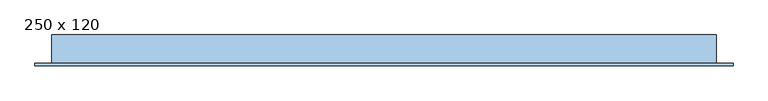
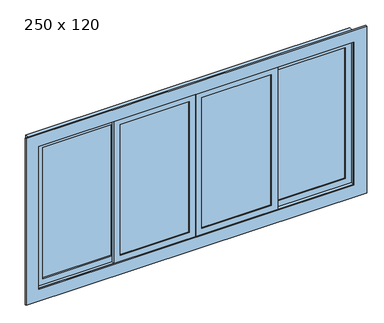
"""IFC4 building model written with IfcOpenShell, lengths in millimetres: window geometry, JANELA COM ESQUADRIA DE CORRER - 4 FOLHAS + VENEZIANA DE CORRER - 4 FOLHAS : 250 x 120."""

from ifc_helpers import new_model, si_unit, frame, origin, place, context, project, spatial, polyline, outline, extrude, source, transform, mapped, element, save


def window_250_x_120_5eaaa340(model_context):
    return source(origin(), model_context, "Body", "SweptSolid", [
        extrude(outline(polyline([(19.1241605, 2085.4166667), (-0.8758395, 2120.4166667), (4.1241605, 2120.4166667), (24.1241605, 2085.4166667), (19.1241605, 2085.4166667)])), frame((779.4035509, 0.0, 0.0), z_axis=(1.0, 0.0, 0.0), x_axis=(0.0, 1.0, 0.0)), (0.0, 0.0, 1.0), 550.0),
        extrude(outline(polyline([(19.1241605, 2055.8333333), (-0.8758395, 2090.8333333), (4.1241605, 2090.8333333), (24.1241605, 2055.8333333), (19.1241605, 2055.8333333)])), frame((779.4035509, 0.0, 0.0), z_axis=(1.0, 0.0, 0.0), x_axis=(0.0, 1.0, 0.0)), (0.0, 0.0, 1.0), 550.0),
        extrude(outline(polyline([(19.1241605, 2026.25), (-0.8758395, 2061.25), (4.1241605, 2061.25), (24.1241605, 2026.25), (19.1241605, 2026.25)])), frame((779.4035509, 0.0, 0.0), z_axis=(1.0, 0.0, 0.0), x_axis=(0.0, 1.0, 0.0)), (0.0, 0.0, 1.0), 550.0),
        extrude(outline(polyline([(19.1241605, 1996.6666667), (-0.8758395, 2031.6666667), (4.1241605, 2031.6666667), (24.1241605, 1996.6666667), (19.1241605, 1996.6666667)])), frame((779.4035509, 0.0, 0.0), z_axis=(1.0, 0.0, 0.0), x_axis=(0.0, 1.0, 0.0)), (0.0, 0.0, 1.0), 550.0),
        extrude(outline(polyline([(19.1241605, 1967.0833333), (-0.8758395, 2002.0833333), (4.1241605, 2002.0833333), (24.1241605, 1967.0833333), (19.1241605, 1967.0833333)])), frame((779.4035509, 0.0, 0.0), z_axis=(1.0, 0.0, 0.0), x_axis=(0.0, 1.0, 0.0)), (0.0, 0.0, 1.0), 550.0),
        extrude(outline(polyline([(19.1241605, 1937.5), (-0.8758395, 1972.5), (4.1241605, 1972.5), (24.1241605, 1937.5), (19.1241605, 1937.5)])), frame((779.4035509, 0.0, 0.0), z_axis=(1.0, 0.0, 0.0), x_axis=(0.0, 1.0, 0.0)), (0.0, 0.0, 1.0), 550.0),
        extrude(outline(polyline([(19.1241605, 1907.9166667), (-0.8758395, 1942.9166667), (4.1241605, 1942.9166667), (24.1241605, 1907.9166667), (19.1241605, 1907.9166667)])), frame((779.4035509, 0.0, 0.0), z_axis=(1.0, 0.0, 0.0), x_axis=(0.0, 1.0, 0.0)), (0.0, 0.0, 1.0), 550.0),
        extrude(outline(polyline([(19.1241605, 1878.3333333), (-0.8758395, 1913.3333333), (4.1241605, 1913.3333333), (24.1241605, 1878.3333333), (19.1241605, 1878.3333333)])), frame((779.4035509, 0.0, 0.0), z_axis=(1.0, 0.0, 0.0), x_axis=(0.0, 1.0, 0.0)), (0.0, 0.0, 1.0), 550.0),
        extrude(outline(polyline([(19.1241605, 1848.75), (-0.8758395, 1883.75), (4.1241605, 1883.75), (24.1241605, 1848.75), (19.1241605, 1848.75)])), frame((779.4035509, 0.0, 0.0), z_axis=(1.0, 0.0, 0.0), x_axis=(0.0, 1.0, 0.0)), (0.0, 0.0, 1.0), 550.0),
        extrude(outline(polyline([(19.1241605, 1819.1666667), (-0.8758395, 1854.1666667), (4.1241605, 1854.1666667), (24.1241605, 1819.1666667), (19.1241605, 1819.1666667)])), frame((779.4035509, 0.0, 0.0), z_axis=(1.0, 0.0, 0.0), x_axis=(0.0, 1.0, 0.0)), (0.0, 0.0, 1.0), 550.0),
        extrude(outline(polyline([(19.1241605, 1789.5833333), (-0.8758395, 1824.5833333), (4.1241605, 1824.5833333), (24.1241605, 1789.5833333), (19.1241605, 1789.5833333)])), frame((779.4035509, 0.0, 0.0), z_axis=(1.0, 0.0, 0.0), x_axis=(0.0, 1.0, 0.0)), (0.0, 0.0, 1.0), 550.0),
        extrude(outline(polyline([(19.1241605, 1760.0), (-0.8758395, 1795.0), (4.1241605, 1795.0), (24.1241605, 1760.0), (19.1241605, 1760.0)])), frame((779.4035509, 0.0, 0.0), z_axis=(1.0, 0.0, 0.0), x_axis=(0.0, 1.0, 0.0)), (0.0, 0.0, 1.0), 550.0),
        extrude(outline(polyline([(19.1241605, 1730.4166667), (-0.8758395, 1765.4166667), (4.1241605, 1765.4166667), (24.1241605, 1730.4166667), (19.1241605, 1730.4166667)])), frame((779.4035509, 0.0, 0.0), z_axis=(1.0, 0.0, 0.0), x_axis=(0.0, 1.0, 0.0)), (0.0, 0.0, 1.0), 550.0),
        extrude(outline(polyline([(19.1241605, 1700.8333333), (-0.8758395, 1735.8333333), (4.1241605, 1735.8333333), (24.1241605, 1700.8333333), (19.1241605, 1700.8333333)])), frame((779.4035509, 0.0, 0.0), z_axis=(1.0, 0.0, 0.0), x_axis=(0.0, 1.0, 0.0)), (0.0, 0.0, 1.0), 550.0),
        extrude(outline(polyline([(19.1241605, 1671.25), (-0.8758395, 1706.25), (4.1241605, 1706.25), (24.1241605, 1671.25), (19.1241605, 1671.25)])), frame((779.4035509, 0.0, 0.0), z_axis=(1.0, 0.0, 0.0), x_axis=(0.0, 1.0, 0.0)), (0.0, 0.0, 1.0), 550.0),
        extrude(outline(polyline([(19.1241605, 1641.6666667), (-0.8758395, 1676.6666667), (4.1241605, 1676.6666667), (24.1241605, 1641.6666667), (19.1241605, 1641.6666667)])), frame((779.4035509, 0.0, 0.0), z_axis=(1.0, 0.0, 0.0), x_axis=(0.0, 1.0, 0.0)), (0.0, 0.0, 1.0), 550.0),
        extrude(outline(polyline([(19.1241605, 1612.0833333), (-0.8758395, 1647.0833333), (4.1241605, 1647.0833333), (24.1241605, 1612.0833333), (19.1241605, 1612.0833333)])), frame((779.4035509, 0.0, 0.0), z_axis=(1.0, 0.0, 0.0), x_axis=(0.0, 1.0, 0.0)), (0.0, 0.0, 1.0), 550.0),
        extrude(outline(polyline([(19.1241605, 1582.5), (-0.8758395, 1617.5), (4.1241605, 1617.5), (24.1241605, 1582.5), (19.1241605, 1582.5)])), frame((779.4035509, 0.0, 0.0), z_axis=(1.0, 0.0, 0.0), x_axis=(0.0, 1.0, 0.0)), (0.0, 0.0, 1.0), 550.0),
        extrude(outline(polyline([(19.1241605, 1552.9166667), (-0.8758395, 1587.9166667), (4.1241605, 1587.9166667), (24.1241605, 1552.9166667), (19.1241605, 1552.9166667)])), frame((779.4035509, 0.0, 0.0), z_axis=(1.0, 0.0, 0.0), x_axis=(0.0, 1.0, 0.0)), (0.0, 0.0, 1.0), 550.0),
        extrude(outline(polyline([(19.1241605, 1523.3333333), (-0.8758395, 1558.3333333), (4.1241605, 1558.3333333), (24.1241605, 1523.3333333), (19.1241605, 1523.3333333)])), frame((779.4035509, 0.0, 0.0), z_axis=(1.0, 0.0, 0.0), x_axis=(0.0, 1.0, 0.0)), (0.0, 0.0, 1.0), 550.0),
        extrude(outline(polyline([(19.1241605, 1493.75), (-0.8758395, 1528.75), (4.1241605, 1528.75), (24.1241605, 1493.75), (19.1241605, 1493.75)])), frame((779.4035509, 0.0, 0.0), z_axis=(1.0, 0.0, 0.0), x_axis=(0.0, 1.0, 0.0)), (0.0, 0.0, 1.0), 550.0),
        extrude(outline(polyline([(19.1241605, 1464.1666667), (-0.8758395, 1499.1666667), (4.1241605, 1499.1666667), (24.1241605, 1464.1666667), (19.1241605, 1464.1666667)])), frame((779.4035509, 0.0, 0.0), z_axis=(1.0, 0.0, 0.0), x_axis=(0.0, 1.0, 0.0)), (0.0, 0.0, 1.0), 550.0),
        extrude(outline(polyline([(19.1241605, 1434.5833333), (-0.8758395, 1469.5833333), (4.1241605, 1469.5833333), (24.1241605, 1434.5833333), (19.1241605, 1434.5833333)])), frame((779.4035509, 0.0, 0.0), z_axis=(1.0, 0.0, 0.0), x_axis=(0.0, 1.0, 0.0)), (0.0, 0.0, 1.0), 550.0),
        extrude(outline(polyline([(19.1241605, 1405.0), (-0.8758395, 1440.0), (4.1241605, 1440.0), (24.1241605, 1405.0), (19.1241605, 1405.0)])), frame((779.4035509, 0.0, 0.0), z_axis=(1.0, 0.0, 0.0), x_axis=(0.0, 1.0, 0.0)), (0.0, 0.0, 1.0), 550.0),
        extrude(outline(polyline([(19.1241605, 1375.4166667), (-0.8758395, 1410.4166667), (4.1241605, 1410.4166667), (24.1241605, 1375.4166667), (19.1241605, 1375.4166667)])), frame((779.4035509, 0.0, 0.0), z_axis=(1.0, 0.0, 0.0), x_axis=(0.0, 1.0, 0.0)), (0.0, 0.0, 1.0), 550.0),
        extrude(outline(polyline([(19.1241605, 1345.8333333), (-0.8758395, 1380.8333333), (4.1241605, 1380.8333333), (24.1241605, 1345.8333333), (19.1241605, 1345.8333333)])), frame((779.4035509, 0.0, 0.0), z_axis=(1.0, 0.0, 0.0), x_axis=(0.0, 1.0, 0.0)), (0.0, 0.0, 1.0), 550.0),
        extrude(outline(polyline([(19.1241605, 1316.25), (-0.8758395, 1351.25), (4.1241605, 1351.25), (24.1241605, 1316.25), (19.1241605, 1316.25)])), frame((779.4035509, 0.0, 0.0), z_axis=(1.0, 0.0, 0.0), x_axis=(0.0, 1.0, 0.0)), (0.0, 0.0, 1.0), 550.0),
        extrude(outline(polyline([(19.1241605, 1286.6666667), (-0.8758395, 1321.6666667), (4.1241605, 1321.6666667), (24.1241605, 1286.6666667), (19.1241605, 1286.6666667)])), frame((779.4035509, 0.0, 0.0), z_axis=(1.0, 0.0, 0.0), x_axis=(0.0, 1.0, 0.0)), (0.0, 0.0, 1.0), 550.0),
        extrude(outline(polyline([(19.1241605, 1257.0833333), (-0.8758395, 1292.0833333), (4.1241605, 1292.0833333), (24.1241605, 1257.0833333), (19.1241605, 1257.0833333)])), frame((779.4035509, 0.0, 0.0), z_axis=(1.0, 0.0, 0.0), x_axis=(0.0, 1.0, 0.0)), (0.0, 0.0, 1.0), 550.0),
        extrude(outline(polyline([(19.1241605, 1227.5), (-0.8758395, 1262.5), (4.1241605, 1262.5), (24.1241605, 1227.5), (19.1241605, 1227.5)])), frame((779.4035509, 0.0, 0.0), z_axis=(1.0, 0.0, 0.0), x_axis=(0.0, 1.0, 0.0)), (0.0, 0.0, 1.0), 550.0),
        extrude(outline(polyline([(19.1241605, 1197.9166667), (-0.8758395, 1232.9166667), (4.1241605, 1232.9166667), (24.1241605, 1197.9166667), (19.1241605, 1197.9166667)])), frame((779.4035509, 0.0, 0.0), z_axis=(1.0, 0.0, 0.0), x_axis=(0.0, 1.0, 0.0)), (0.0, 0.0, 1.0), 550.0),
        extrude(outline(polyline([(19.1241605, 1168.3333333), (-0.8758395, 1203.3333333), (4.1241605, 1203.3333333), (24.1241605, 1168.3333333), (19.1241605, 1168.3333333)])), frame((779.4035509, 0.0, 0.0), z_axis=(1.0, 0.0, 0.0), x_axis=(0.0, 1.0, 0.0)), (0.0, 0.0, 1.0), 550.0),
        extrude(outline(polyline([(19.1241605, 1138.75), (-0.8758395, 1173.75), (4.1241605, 1173.75), (24.1241605, 1138.75), (19.1241605, 1138.75)])), frame((779.4035509, 0.0, 0.0), z_axis=(1.0, 0.0, 0.0), x_axis=(0.0, 1.0, 0.0)), (0.0, 0.0, 1.0), 550.0),
        extrude(outline(polyline([(19.1241605, 1109.1666667), (-0.8758395, 1144.1666667), (4.1241605, 1144.1666667), (24.1241605, 1109.1666667), (19.1241605, 1109.1666667)])), frame((779.4035509, 0.0, 0.0), z_axis=(1.0, 0.0, 0.0), x_axis=(0.0, 1.0, 0.0)), (0.0, 0.0, 1.0), 550.0),
        extrude(outline(polyline([(19.1241605, 1079.5833333), (-0.8758395, 1114.5833333), (4.1241605, 1114.5833333), (24.1241605, 1079.5833333), (19.1241605, 1079.5833333)])), frame((779.4035509, 0.0, 0.0), z_axis=(1.0, 0.0, 0.0), x_axis=(0.0, 1.0, 0.0)), (0.0, 0.0, 1.0), 550.0),
        extrude(outline(polyline([(19.1241605, 2115.0), (-0.8758395, 2150.0), (4.1241605, 2150.0), (24.1241605, 2115.0), (19.1241605, 2115.0)])), frame((779.4035509, 0.0, 0.0), z_axis=(1.0, 0.0, 0.0), x_axis=(0.0, 1.0, 0.0)), (0.0, 0.0, 1.0), 550.0),
        extrude(outline(polyline([(19.1241605, 1050.0), (-0.8758395, 1085.0), (4.1241605, 1085.0), (24.1241605, 1050.0), (19.1241605, 1050.0)])), frame((779.4035509, 0.0, 0.0), z_axis=(1.0, 0.0, 0.0), x_axis=(0.0, 1.0, 0.0)), (0.0, 0.0, 1.0), 550.0),
        extrude(outline(polyline([(2200.0, 1379.4035509), (2200.0, 729.4035509), (1000.0, 729.4035509), (1000.0, 1379.4035509), (2200.0, 1379.4035509)]), holes=[polyline([(2150.0, 1329.4035509), (1050.0, 1329.4035509), (1050.0, 779.4035509), (2150.0, 779.4035509), (2150.0, 1329.4035509)])]), frame((0.0, -0.8758395, 0.0), z_axis=(0.0, 1.0, 0.0), x_axis=(0.0, 0.0, 1.0)), (0.0, 0.0, 1.0), 25.0),
        extrude(outline(polyline([(-5.8758395, 2085.4166667), (-25.8758395, 2120.4166667), (-20.8758395, 2120.4166667), (-0.8758395, 2085.4166667), (-5.8758395, 2085.4166667)])), frame((679.4035509, 0.0, 0.0), z_axis=(1.0, 0.0, 0.0), x_axis=(0.0, 1.0, 0.0)), (0.0, 0.0, 1.0), 550.0),
        extrude(outline(polyline([(-5.8758395, 2055.8333333), (-25.8758395, 2090.8333333), (-20.8758395, 2090.8333333), (-0.8758395, 2055.8333333), (-5.8758395, 2055.8333333)])), frame((679.4035509, 0.0, 0.0), z_axis=(1.0, 0.0, 0.0), x_axis=(0.0, 1.0, 0.0)), (0.0, 0.0, 1.0), 550.0),
        extrude(outline(polyline([(-5.8758395, 2026.25), (-25.8758395, 2061.25), (-20.8758395, 2061.25), (-0.8758395, 2026.25), (-5.8758395, 2026.25)])), frame((679.4035509, 0.0, 0.0), z_axis=(1.0, 0.0, 0.0), x_axis=(0.0, 1.0, 0.0)), (0.0, 0.0, 1.0), 550.0),
        extrude(outline(polyline([(-5.8758395, 1996.6666667), (-25.8758395, 2031.6666667), (-20.8758395, 2031.6666667), (-0.8758395, 1996.6666667), (-5.8758395, 1996.6666667)])), frame((679.4035509, 0.0, 0.0), z_axis=(1.0, 0.0, 0.0), x_axis=(0.0, 1.0, 0.0)), (0.0, 0.0, 1.0), 550.0),
        extrude(outline(polyline([(-5.8758395, 1967.0833333), (-25.8758395, 2002.0833333), (-20.8758395, 2002.0833333), (-0.8758395, 1967.0833333), (-5.8758395, 1967.0833333)])), frame((679.4035509, 0.0, 0.0), z_axis=(1.0, 0.0, 0.0), x_axis=(0.0, 1.0, 0.0)), (0.0, 0.0, 1.0), 550.0),
        extrude(outline(polyline([(-5.8758395, 1937.5), (-25.8758395, 1972.5), (-20.8758395, 1972.5), (-0.8758395, 1937.5), (-5.8758395, 1937.5)])), frame((679.4035509, 0.0, 0.0), z_axis=(1.0, 0.0, 0.0), x_axis=(0.0, 1.0, 0.0)), (0.0, 0.0, 1.0), 550.0),
        extrude(outline(polyline([(-5.8758395, 1907.9166667), (-25.8758395, 1942.9166667), (-20.8758395, 1942.9166667), (-0.8758395, 1907.9166667), (-5.8758395, 1907.9166667)])), frame((679.4035509, 0.0, 0.0), z_axis=(1.0, 0.0, 0.0), x_axis=(0.0, 1.0, 0.0)), (0.0, 0.0, 1.0), 550.0),
        extrude(outline(polyline([(-5.8758395, 1878.3333333), (-25.8758395, 1913.3333333), (-20.8758395, 1913.3333333), (-0.8758395, 1878.3333333), (-5.8758395, 1878.3333333)])), frame((679.4035509, 0.0, 0.0), z_axis=(1.0, 0.0, 0.0), x_axis=(0.0, 1.0, 0.0)), (0.0, 0.0, 1.0), 550.0),
        extrude(outline(polyline([(-5.8758395, 1848.75), (-25.8758395, 1883.75), (-20.8758395, 1883.75), (-0.8758395, 1848.75), (-5.8758395, 1848.75)])), frame((679.4035509, 0.0, 0.0), z_axis=(1.0, 0.0, 0.0), x_axis=(0.0, 1.0, 0.0)), (0.0, 0.0, 1.0), 550.0),
        extrude(outline(polyline([(-5.8758395, 1819.1666667), (-25.8758395, 1854.1666667), (-20.8758395, 1854.1666667), (-0.8758395, 1819.1666667), (-5.8758395, 1819.1666667)])), frame((679.4035509, 0.0, 0.0), z_axis=(1.0, 0.0, 0.0), x_axis=(0.0, 1.0, 0.0)), (0.0, 0.0, 1.0), 550.0),
        extrude(outline(polyline([(-5.8758395, 1789.5833333), (-25.8758395, 1824.5833333), (-20.8758395, 1824.5833333), (-0.8758395, 1789.5833333), (-5.8758395, 1789.5833333)])), frame((679.4035509, 0.0, 0.0), z_axis=(1.0, 0.0, 0.0), x_axis=(0.0, 1.0, 0.0)), (0.0, 0.0, 1.0), 550.0),
        extrude(outline(polyline([(-5.8758395, 1760.0), (-25.8758395, 1795.0), (-20.8758395, 1795.0), (-0.8758395, 1760.0), (-5.8758395, 1760.0)])), frame((679.4035509, 0.0, 0.0), z_axis=(1.0, 0.0, 0.0), x_axis=(0.0, 1.0, 0.0)), (0.0, 0.0, 1.0), 550.0),
        extrude(outline(polyline([(-5.8758395, 1730.4166667), (-25.8758395, 1765.4166667), (-20.8758395, 1765.4166667), (-0.8758395, 1730.4166667), (-5.8758395, 1730.4166667)])), frame((679.4035509, 0.0, 0.0), z_axis=(1.0, 0.0, 0.0), x_axis=(0.0, 1.0, 0.0)), (0.0, 0.0, 1.0), 550.0),
        extrude(outline(polyline([(-5.8758395, 1700.8333333), (-25.8758395, 1735.8333333), (-20.8758395, 1735.8333333), (-0.8758395, 1700.8333333), (-5.8758395, 1700.8333333)])), frame((679.4035509, 0.0, 0.0), z_axis=(1.0, 0.0, 0.0), x_axis=(0.0, 1.0, 0.0)), (0.0, 0.0, 1.0), 550.0),
        extrude(outline(polyline([(-5.8758395, 1671.25), (-25.8758395, 1706.25), (-20.8758395, 1706.25), (-0.8758395, 1671.25), (-5.8758395, 1671.25)])), frame((679.4035509, 0.0, 0.0), z_axis=(1.0, 0.0, 0.0), x_axis=(0.0, 1.0, 0.0)), (0.0, 0.0, 1.0), 550.0),
        extrude(outline(polyline([(-5.8758395, 1641.6666667), (-25.8758395, 1676.6666667), (-20.8758395, 1676.6666667), (-0.8758395, 1641.6666667), (-5.8758395, 1641.6666667)])), frame((679.4035509, 0.0, 0.0), z_axis=(1.0, 0.0, 0.0), x_axis=(0.0, 1.0, 0.0)), (0.0, 0.0, 1.0), 550.0),
        extrude(outline(polyline([(-5.8758395, 1612.0833333), (-25.8758395, 1647.0833333), (-20.8758395, 1647.0833333), (-0.8758395, 1612.0833333), (-5.8758395, 1612.0833333)])), frame((679.4035509, 0.0, 0.0), z_axis=(1.0, 0.0, 0.0), x_axis=(0.0, 1.0, 0.0)), (0.0, 0.0, 1.0), 550.0),
        extrude(outline(polyline([(-5.8758395, 1582.5), (-25.8758395, 1617.5), (-20.8758395, 1617.5), (-0.8758395, 1582.5), (-5.8758395, 1582.5)])), frame((679.4035509, 0.0, 0.0), z_axis=(1.0, 0.0, 0.0), x_axis=(0.0, 1.0, 0.0)), (0.0, 0.0, 1.0), 550.0),
        extrude(outline(polyline([(-5.8758395, 1552.9166667), (-25.8758395, 1587.9166667), (-20.8758395, 1587.9166667), (-0.8758395, 1552.9166667), (-5.8758395, 1552.9166667)])), frame((679.4035509, 0.0, 0.0), z_axis=(1.0, 0.0, 0.0), x_axis=(0.0, 1.0, 0.0)), (0.0, 0.0, 1.0), 550.0),
        extrude(outline(polyline([(-5.8758395, 1523.3333333), (-25.8758395, 1558.3333333), (-20.8758395, 1558.3333333), (-0.8758395, 1523.3333333), (-5.8758395, 1523.3333333)])), frame((679.4035509, 0.0, 0.0), z_axis=(1.0, 0.0, 0.0), x_axis=(0.0, 1.0, 0.0)), (0.0, 0.0, 1.0), 550.0),
        extrude(outline(polyline([(-5.8758395, 1493.75), (-25.8758395, 1528.75), (-20.8758395, 1528.75), (-0.8758395, 1493.75), (-5.8758395, 1493.75)])), frame((679.4035509, 0.0, 0.0), z_axis=(1.0, 0.0, 0.0), x_axis=(0.0, 1.0, 0.0)), (0.0, 0.0, 1.0), 550.0),
        extrude(outline(polyline([(-5.8758395, 1464.1666667), (-25.8758395, 1499.1666667), (-20.8758395, 1499.1666667), (-0.8758395, 1464.1666667), (-5.8758395, 1464.1666667)])), frame((679.4035509, 0.0, 0.0), z_axis=(1.0, 0.0, 0.0), x_axis=(0.0, 1.0, 0.0)), (0.0, 0.0, 1.0), 550.0),
        extrude(outline(polyline([(-5.8758395, 1434.5833333), (-25.8758395, 1469.5833333), (-20.8758395, 1469.5833333), (-0.8758395, 1434.5833333), (-5.8758395, 1434.5833333)])), frame((679.4035509, 0.0, 0.0), z_axis=(1.0, 0.0, 0.0), x_axis=(0.0, 1.0, 0.0)), (0.0, 0.0, 1.0), 550.0),
        extrude(outline(polyline([(-5.8758395, 1405.0), (-25.8758395, 1440.0), (-20.8758395, 1440.0), (-0.8758395, 1405.0), (-5.8758395, 1405.0)])), frame((679.4035509, 0.0, 0.0), z_axis=(1.0, 0.0, 0.0), x_axis=(0.0, 1.0, 0.0)), (0.0, 0.0, 1.0), 550.0),
        extrude(outline(polyline([(-5.8758395, 1375.4166667), (-25.8758395, 1410.4166667), (-20.8758395, 1410.4166667), (-0.8758395, 1375.4166667), (-5.8758395, 1375.4166667)])), frame((679.4035509, 0.0, 0.0), z_axis=(1.0, 0.0, 0.0), x_axis=(0.0, 1.0, 0.0)), (0.0, 0.0, 1.0), 550.0),
        extrude(outline(polyline([(-5.8758395, 1345.8333333), (-25.8758395, 1380.8333333), (-20.8758395, 1380.8333333), (-0.8758395, 1345.8333333), (-5.8758395, 1345.8333333)])), frame((679.4035509, 0.0, 0.0), z_axis=(1.0, 0.0, 0.0), x_axis=(0.0, 1.0, 0.0)), (0.0, 0.0, 1.0), 550.0),
        extrude(outline(polyline([(-5.8758395, 1316.25), (-25.8758395, 1351.25), (-20.8758395, 1351.25), (-0.8758395, 1316.25), (-5.8758395, 1316.25)])), frame((679.4035509, 0.0, 0.0), z_axis=(1.0, 0.0, 0.0), x_axis=(0.0, 1.0, 0.0)), (0.0, 0.0, 1.0), 550.0),
        extrude(outline(polyline([(-5.8758395, 1286.6666667), (-25.8758395, 1321.6666667), (-20.8758395, 1321.6666667), (-0.8758395, 1286.6666667), (-5.8758395, 1286.6666667)])), frame((679.4035509, 0.0, 0.0), z_axis=(1.0, 0.0, 0.0), x_axis=(0.0, 1.0, 0.0)), (0.0, 0.0, 1.0), 550.0),
        extrude(outline(polyline([(-5.8758395, 1257.0833333), (-25.8758395, 1292.0833333), (-20.8758395, 1292.0833333), (-0.8758395, 1257.0833333), (-5.8758395, 1257.0833333)])), frame((679.4035509, 0.0, 0.0), z_axis=(1.0, 0.0, 0.0), x_axis=(0.0, 1.0, 0.0)), (0.0, 0.0, 1.0), 550.0),
        extrude(outline(polyline([(-5.8758395, 1227.5), (-25.8758395, 1262.5), (-20.8758395, 1262.5), (-0.8758395, 1227.5), (-5.8758395, 1227.5)])), frame((679.4035509, 0.0, 0.0), z_axis=(1.0, 0.0, 0.0), x_axis=(0.0, 1.0, 0.0)), (0.0, 0.0, 1.0), 550.0),
        extrude(outline(polyline([(-5.8758395, 1197.9166667), (-25.8758395, 1232.9166667), (-20.8758395, 1232.9166667), (-0.8758395, 1197.9166667), (-5.8758395, 1197.9166667)])), frame((679.4035509, 0.0, 0.0), z_axis=(1.0, 0.0, 0.0), x_axis=(0.0, 1.0, 0.0)), (0.0, 0.0, 1.0), 550.0),
        extrude(outline(polyline([(-5.8758395, 1168.3333333), (-25.8758395, 1203.3333333), (-20.8758395, 1203.3333333), (-0.8758395, 1168.3333333), (-5.8758395, 1168.3333333)])), frame((679.4035509, 0.0, 0.0), z_axis=(1.0, 0.0, 0.0), x_axis=(0.0, 1.0, 0.0)), (0.0, 0.0, 1.0), 550.0),
        extrude(outline(polyline([(-5.8758395, 1138.75), (-25.8758395, 1173.75), (-20.8758395, 1173.75), (-0.8758395, 1138.75), (-5.8758395, 1138.75)])), frame((679.4035509, 0.0, 0.0), z_axis=(1.0, 0.0, 0.0), x_axis=(0.0, 1.0, 0.0)), (0.0, 0.0, 1.0), 550.0),
        extrude(outline(polyline([(-5.8758395, 1109.1666667), (-25.8758395, 1144.1666667), (-20.8758395, 1144.1666667), (-0.8758395, 1109.1666667), (-5.8758395, 1109.1666667)])), frame((679.4035509, 0.0, 0.0), z_axis=(1.0, 0.0, 0.0), x_axis=(0.0, 1.0, 0.0)), (0.0, 0.0, 1.0), 550.0),
        extrude(outline(polyline([(-5.8758395, 1079.5833333), (-25.8758395, 1114.5833333), (-20.8758395, 1114.5833333), (-0.8758395, 1079.5833333), (-5.8758395, 1079.5833333)])), frame((679.4035509, 0.0, 0.0), z_axis=(1.0, 0.0, 0.0), x_axis=(0.0, 1.0, 0.0)), (0.0, 0.0, 1.0), 550.0),
        extrude(outline(polyline([(-5.8758395, 2115.0), (-25.8758395, 2150.0), (-20.8758395, 2150.0), (-0.8758395, 2115.0), (-5.8758395, 2115.0)])), frame((679.4035509, 0.0, 0.0), z_axis=(1.0, 0.0, 0.0), x_axis=(0.0, 1.0, 0.0)), (0.0, 0.0, 1.0), 550.0),
        extrude(outline(polyline([(-5.8758395, 1050.0), (-25.8758395, 1085.0), (-20.8758395, 1085.0), (-0.8758395, 1050.0), (-5.8758395, 1050.0)])), frame((679.4035509, 0.0, 0.0), z_axis=(1.0, 0.0, 0.0), x_axis=(0.0, 1.0, 0.0)), (0.0, 0.0, 1.0), 550.0),
        extrude(outline(polyline([(2200.0, 1279.4035509), (2200.0, 629.4035509), (1000.0, 629.4035509), (1000.0, 1279.4035509), (2200.0, 1279.4035509)]), holes=[polyline([(2150.0, 1229.4035509), (1050.0, 1229.4035509), (1050.0, 679.4035509), (2150.0, 679.4035509), (2150.0, 1229.4035509)])]), frame((0.0, -25.8758395, 0.0), z_axis=(0.0, 1.0, 0.0), x_axis=(0.0, 0.0, 1.0)), (0.0, 0.0, 1.0), 25.0),
        extrude(outline(polyline([(1329.4035509, -35.3758395), (1329.4035509, -41.3758395), (779.4035509, -41.3758395), (779.4035509, -35.3758395), (1329.4035509, -35.3758395)])), frame((0.0, 0.0, 1050.0), z_axis=(0.0, 0.0, 1.0), x_axis=(1.0, 0.0, 0.0)), (0.0, 0.0, 1.0), 1100.0),
        extrude(outline(polyline([(2200.0, 1379.4035509), (2200.0, 729.4035509), (1000.0, 729.4035509), (1000.0, 1379.4035509), (2200.0, 1379.4035509)]), holes=[polyline([(2150.0, 1329.4035509), (1050.0, 1329.4035509), (1050.0, 779.4035509), (2150.0, 779.4035509), (2150.0, 1329.4035509)])]), frame((0.0, -50.8758395, 0.0), z_axis=(0.0, 1.0, 0.0), x_axis=(0.0, 0.0, 1.0)), (0.0, 0.0, 1.0), 25.0),
        extrude(outline(polyline([(179.4035509, -60.3758395), (729.4035509, -60.3758395), (729.4035509, -66.3758395), (179.4035509, -66.3758395), (179.4035509, -60.3758395)])), frame((0.0, 0.0, 1050.0), z_axis=(0.0, 0.0, 1.0), x_axis=(1.0, 0.0, 0.0)), (0.0, 0.0, 1.0), 1100.0),
        extrude(outline(polyline([(2200.0, 129.4035509), (1000.0, 129.4035509), (1000.0, 779.4035509), (2200.0, 779.4035509), (2200.0, 129.4035509)]), holes=[polyline([(2150.0, 179.4035509), (2150.0, 729.4035509), (1050.0, 729.4035509), (1050.0, 179.4035509), (2150.0, 179.4035509)])]), frame((0.0, -75.8758395, 0.0), z_axis=(0.0, 1.0, 0.0), x_axis=(0.0, 0.0, 1.0)), (0.0, 0.0, 1.0), 25.0),
        extrude(outline(polyline([(19.1241605, 2085.4166667), (-0.8758395, 2120.4166667), (4.1241605, 2120.4166667), (24.1241605, 2085.4166667), (19.1241605, 2085.4166667)])), frame((-1070.5964491, 0.0, 0.0), z_axis=(1.0, 0.0, 0.0), x_axis=(0.0, 1.0, 0.0)), (0.0, 0.0, 1.0), 550.0),
        extrude(outline(polyline([(19.1241605, 2055.8333333), (-0.8758395, 2090.8333333), (4.1241605, 2090.8333333), (24.1241605, 2055.8333333), (19.1241605, 2055.8333333)])), frame((-1070.5964491, 0.0, 0.0), z_axis=(1.0, 0.0, 0.0), x_axis=(0.0, 1.0, 0.0)), (0.0, 0.0, 1.0), 550.0),
        extrude(outline(polyline([(19.1241605, 2026.25), (-0.8758395, 2061.25), (4.1241605, 2061.25), (24.1241605, 2026.25), (19.1241605, 2026.25)])), frame((-1070.5964491, 0.0, 0.0), z_axis=(1.0, 0.0, 0.0), x_axis=(0.0, 1.0, 0.0)), (0.0, 0.0, 1.0), 550.0),
        extrude(outline(polyline([(19.1241605, 1996.6666667), (-0.8758395, 2031.6666667), (4.1241605, 2031.6666667), (24.1241605, 1996.6666667), (19.1241605, 1996.6666667)])), frame((-1070.5964491, 0.0, 0.0), z_axis=(1.0, 0.0, 0.0), x_axis=(0.0, 1.0, 0.0)), (0.0, 0.0, 1.0), 550.0),
        extrude(outline(polyline([(19.1241605, 1967.0833333), (-0.8758395, 2002.0833333), (4.1241605, 2002.0833333), (24.1241605, 1967.0833333), (19.1241605, 1967.0833333)])), frame((-1070.5964491, 0.0, 0.0), z_axis=(1.0, 0.0, 0.0), x_axis=(0.0, 1.0, 0.0)), (0.0, 0.0, 1.0), 550.0),
        extrude(outline(polyline([(19.1241605, 1937.5), (-0.8758395, 1972.5), (4.1241605, 1972.5), (24.1241605, 1937.5), (19.1241605, 1937.5)])), frame((-1070.5964491, 0.0, 0.0), z_axis=(1.0, 0.0, 0.0), x_axis=(0.0, 1.0, 0.0)), (0.0, 0.0, 1.0), 550.0),
        extrude(outline(polyline([(19.1241605, 1907.9166667), (-0.8758395, 1942.9166667), (4.1241605, 1942.9166667), (24.1241605, 1907.9166667), (19.1241605, 1907.9166667)])), frame((-1070.5964491, 0.0, 0.0), z_axis=(1.0, 0.0, 0.0), x_axis=(0.0, 1.0, 0.0)), (0.0, 0.0, 1.0), 550.0),
        extrude(outline(polyline([(19.1241605, 1878.3333333), (-0.8758395, 1913.3333333), (4.1241605, 1913.3333333), (24.1241605, 1878.3333333), (19.1241605, 1878.3333333)])), frame((-1070.5964491, 0.0, 0.0), z_axis=(1.0, 0.0, 0.0), x_axis=(0.0, 1.0, 0.0)), (0.0, 0.0, 1.0), 550.0),
        extrude(outline(polyline([(19.1241605, 1848.75), (-0.8758395, 1883.75), (4.1241605, 1883.75), (24.1241605, 1848.75), (19.1241605, 1848.75)])), frame((-1070.5964491, 0.0, 0.0), z_axis=(1.0, 0.0, 0.0), x_axis=(0.0, 1.0, 0.0)), (0.0, 0.0, 1.0), 550.0),
        extrude(outline(polyline([(19.1241605, 1819.1666667), (-0.8758395, 1854.1666667), (4.1241605, 1854.1666667), (24.1241605, 1819.1666667), (19.1241605, 1819.1666667)])), frame((-1070.5964491, 0.0, 0.0), z_axis=(1.0, 0.0, 0.0), x_axis=(0.0, 1.0, 0.0)), (0.0, 0.0, 1.0), 550.0),
        extrude(outline(polyline([(19.1241605, 1789.5833333), (-0.8758395, 1824.5833333), (4.1241605, 1824.5833333), (24.1241605, 1789.5833333), (19.1241605, 1789.5833333)])), frame((-1070.5964491, 0.0, 0.0), z_axis=(1.0, 0.0, 0.0), x_axis=(0.0, 1.0, 0.0)), (0.0, 0.0, 1.0), 550.0),
        extrude(outline(polyline([(19.1241605, 1760.0), (-0.8758395, 1795.0), (4.1241605, 1795.0), (24.1241605, 1760.0), (19.1241605, 1760.0)])), frame((-1070.5964491, 0.0, 0.0), z_axis=(1.0, 0.0, 0.0), x_axis=(0.0, 1.0, 0.0)), (0.0, 0.0, 1.0), 550.0),
        extrude(outline(polyline([(19.1241605, 1730.4166667), (-0.8758395, 1765.4166667), (4.1241605, 1765.4166667), (24.1241605, 1730.4166667), (19.1241605, 1730.4166667)])), frame((-1070.5964491, 0.0, 0.0), z_axis=(1.0, 0.0, 0.0), x_axis=(0.0, 1.0, 0.0)), (0.0, 0.0, 1.0), 550.0),
        extrude(outline(polyline([(19.1241605, 1700.8333333), (-0.8758395, 1735.8333333), (4.1241605, 1735.8333333), (24.1241605, 1700.8333333), (19.1241605, 1700.8333333)])), frame((-1070.5964491, 0.0, 0.0), z_axis=(1.0, 0.0, 0.0), x_axis=(0.0, 1.0, 0.0)), (0.0, 0.0, 1.0), 550.0),
        extrude(outline(polyline([(19.1241605, 1671.25), (-0.8758395, 1706.25), (4.1241605, 1706.25), (24.1241605, 1671.25), (19.1241605, 1671.25)])), frame((-1070.5964491, 0.0, 0.0), z_axis=(1.0, 0.0, 0.0), x_axis=(0.0, 1.0, 0.0)), (0.0, 0.0, 1.0), 550.0),
        extrude(outline(polyline([(19.1241605, 1641.6666667), (-0.8758395, 1676.6666667), (4.1241605, 1676.6666667), (24.1241605, 1641.6666667), (19.1241605, 1641.6666667)])), frame((-1070.5964491, 0.0, 0.0), z_axis=(1.0, 0.0, 0.0), x_axis=(0.0, 1.0, 0.0)), (0.0, 0.0, 1.0), 550.0),
        extrude(outline(polyline([(19.1241605, 1612.0833333), (-0.8758395, 1647.0833333), (4.1241605, 1647.0833333), (24.1241605, 1612.0833333), (19.1241605, 1612.0833333)])), frame((-1070.5964491, 0.0, 0.0), z_axis=(1.0, 0.0, 0.0), x_axis=(0.0, 1.0, 0.0)), (0.0, 0.0, 1.0), 550.0),
        extrude(outline(polyline([(19.1241605, 1582.5), (-0.8758395, 1617.5), (4.1241605, 1617.5), (24.1241605, 1582.5), (19.1241605, 1582.5)])), frame((-1070.5964491, 0.0, 0.0), z_axis=(1.0, 0.0, 0.0), x_axis=(0.0, 1.0, 0.0)), (0.0, 0.0, 1.0), 550.0),
        extrude(outline(polyline([(19.1241605, 1552.9166667), (-0.8758395, 1587.9166667), (4.1241605, 1587.9166667), (24.1241605, 1552.9166667), (19.1241605, 1552.9166667)])), frame((-1070.5964491, 0.0, 0.0), z_axis=(1.0, 0.0, 0.0), x_axis=(0.0, 1.0, 0.0)), (0.0, 0.0, 1.0), 550.0),
        extrude(outline(polyline([(19.1241605, 1523.3333333), (-0.8758395, 1558.3333333), (4.1241605, 1558.3333333), (24.1241605, 1523.3333333), (19.1241605, 1523.3333333)])), frame((-1070.5964491, 0.0, 0.0), z_axis=(1.0, 0.0, 0.0), x_axis=(0.0, 1.0, 0.0)), (0.0, 0.0, 1.0), 550.0),
        extrude(outline(polyline([(19.1241605, 1493.75), (-0.8758395, 1528.75), (4.1241605, 1528.75), (24.1241605, 1493.75), (19.1241605, 1493.75)])), frame((-1070.5964491, 0.0, 0.0), z_axis=(1.0, 0.0, 0.0), x_axis=(0.0, 1.0, 0.0)), (0.0, 0.0, 1.0), 550.0),
        extrude(outline(polyline([(19.1241605, 1464.1666667), (-0.8758395, 1499.1666667), (4.1241605, 1499.1666667), (24.1241605, 1464.1666667), (19.1241605, 1464.1666667)])), frame((-1070.5964491, 0.0, 0.0), z_axis=(1.0, 0.0, 0.0), x_axis=(0.0, 1.0, 0.0)), (0.0, 0.0, 1.0), 550.0),
        extrude(outline(polyline([(19.1241605, 1434.5833333), (-0.8758395, 1469.5833333), (4.1241605, 1469.5833333), (24.1241605, 1434.5833333), (19.1241605, 1434.5833333)])), frame((-1070.5964491, 0.0, 0.0), z_axis=(1.0, 0.0, 0.0), x_axis=(0.0, 1.0, 0.0)), (0.0, 0.0, 1.0), 550.0),
        extrude(outline(polyline([(19.1241605, 1405.0), (-0.8758395, 1440.0), (4.1241605, 1440.0), (24.1241605, 1405.0), (19.1241605, 1405.0)])), frame((-1070.5964491, 0.0, 0.0), z_axis=(1.0, 0.0, 0.0), x_axis=(0.0, 1.0, 0.0)), (0.0, 0.0, 1.0), 550.0),
        extrude(outline(polyline([(19.1241605, 1375.4166667), (-0.8758395, 1410.4166667), (4.1241605, 1410.4166667), (24.1241605, 1375.4166667), (19.1241605, 1375.4166667)])), frame((-1070.5964491, 0.0, 0.0), z_axis=(1.0, 0.0, 0.0), x_axis=(0.0, 1.0, 0.0)), (0.0, 0.0, 1.0), 550.0),
        extrude(outline(polyline([(19.1241605, 1345.8333333), (-0.8758395, 1380.8333333), (4.1241605, 1380.8333333), (24.1241605, 1345.8333333), (19.1241605, 1345.8333333)])), frame((-1070.5964491, 0.0, 0.0), z_axis=(1.0, 0.0, 0.0), x_axis=(0.0, 1.0, 0.0)), (0.0, 0.0, 1.0), 550.0),
        extrude(outline(polyline([(19.1241605, 1316.25), (-0.8758395, 1351.25), (4.1241605, 1351.25), (24.1241605, 1316.25), (19.1241605, 1316.25)])), frame((-1070.5964491, 0.0, 0.0), z_axis=(1.0, 0.0, 0.0), x_axis=(0.0, 1.0, 0.0)), (0.0, 0.0, 1.0), 550.0),
        extrude(outline(polyline([(19.1241605, 1286.6666667), (-0.8758395, 1321.6666667), (4.1241605, 1321.6666667), (24.1241605, 1286.6666667), (19.1241605, 1286.6666667)])), frame((-1070.5964491, 0.0, 0.0), z_axis=(1.0, 0.0, 0.0), x_axis=(0.0, 1.0, 0.0)), (0.0, 0.0, 1.0), 550.0),
        extrude(outline(polyline([(19.1241605, 1257.0833333), (-0.8758395, 1292.0833333), (4.1241605, 1292.0833333), (24.1241605, 1257.0833333), (19.1241605, 1257.0833333)])), frame((-1070.5964491, 0.0, 0.0), z_axis=(1.0, 0.0, 0.0), x_axis=(0.0, 1.0, 0.0)), (0.0, 0.0, 1.0), 550.0),
        extrude(outline(polyline([(19.1241605, 1227.5), (-0.8758395, 1262.5), (4.1241605, 1262.5), (24.1241605, 1227.5), (19.1241605, 1227.5)])), frame((-1070.5964491, 0.0, 0.0), z_axis=(1.0, 0.0, 0.0), x_axis=(0.0, 1.0, 0.0)), (0.0, 0.0, 1.0), 550.0),
        extrude(outline(polyline([(19.1241605, 1197.9166667), (-0.8758395, 1232.9166667), (4.1241605, 1232.9166667), (24.1241605, 1197.9166667), (19.1241605, 1197.9166667)])), frame((-1070.5964491, 0.0, 0.0), z_axis=(1.0, 0.0, 0.0), x_axis=(0.0, 1.0, 0.0)), (0.0, 0.0, 1.0), 550.0),
        extrude(outline(polyline([(19.1241605, 1168.3333333), (-0.8758395, 1203.3333333), (4.1241605, 1203.3333333), (24.1241605, 1168.3333333), (19.1241605, 1168.3333333)])), frame((-1070.5964491, 0.0, 0.0), z_axis=(1.0, 0.0, 0.0), x_axis=(0.0, 1.0, 0.0)), (0.0, 0.0, 1.0), 550.0),
        extrude(outline(polyline([(19.1241605, 1138.75), (-0.8758395, 1173.75), (4.1241605, 1173.75), (24.1241605, 1138.75), (19.1241605, 1138.75)])), frame((-1070.5964491, 0.0, 0.0), z_axis=(1.0, 0.0, 0.0), x_axis=(0.0, 1.0, 0.0)), (0.0, 0.0, 1.0), 550.0),
        extrude(outline(polyline([(19.1241605, 1109.1666667), (-0.8758395, 1144.1666667), (4.1241605, 1144.1666667), (24.1241605, 1109.1666667), (19.1241605, 1109.1666667)])), frame((-1070.5964491, 0.0, 0.0), z_axis=(1.0, 0.0, 0.0), x_axis=(0.0, 1.0, 0.0)), (0.0, 0.0, 1.0), 550.0),
        extrude(outline(polyline([(19.1241605, 1079.5833333), (-0.8758395, 1114.5833333), (4.1241605, 1114.5833333), (24.1241605, 1079.5833333), (19.1241605, 1079.5833333)])), frame((-1070.5964491, 0.0, 0.0), z_axis=(1.0, 0.0, 0.0), x_axis=(0.0, 1.0, 0.0)), (0.0, 0.0, 1.0), 550.0),
        extrude(outline(polyline([(19.1241605, 2115.0), (-0.8758395, 2150.0), (4.1241605, 2150.0), (24.1241605, 2115.0), (19.1241605, 2115.0)])), frame((-1070.5964491, 0.0, 0.0), z_axis=(1.0, 0.0, 0.0), x_axis=(0.0, 1.0, 0.0)), (0.0, 0.0, 1.0), 550.0),
        extrude(outline(polyline([(19.1241605, 1050.0), (-0.8758395, 1085.0), (4.1241605, 1085.0), (24.1241605, 1050.0), (19.1241605, 1050.0)])), frame((-1070.5964491, 0.0, 0.0), z_axis=(1.0, 0.0, 0.0), x_axis=(0.0, 1.0, 0.0)), (0.0, 0.0, 1.0), 550.0),
        extrude(outline(polyline([(2200.0, -1120.5964491), (1000.0, -1120.5964491), (1000.0, -470.5964491), (2200.0, -470.5964491), (2200.0, -1120.5964491)]), holes=[polyline([(2150.0, -1070.5964491), (2150.0, -520.5964491), (1050.0, -520.5964491), (1050.0, -1070.5964491), (2150.0, -1070.5964491)])]), frame((0.0, -0.8758395, 0.0), z_axis=(0.0, 1.0, 0.0), x_axis=(0.0, 0.0, 1.0)), (0.0, 0.0, 1.0), 25.0),
        extrude(outline(polyline([(-5.8758395, 2085.4166667), (-25.8758395, 2120.4166667), (-20.8758395, 2120.4166667), (-0.8758395, 2085.4166667), (-5.8758395, 2085.4166667)])), frame((-970.5964491, 0.0, 0.0), z_axis=(1.0, 0.0, 0.0), x_axis=(0.0, 1.0, 0.0)), (0.0, 0.0, 1.0), 550.0),
        extrude(outline(polyline([(-5.8758395, 2055.8333333), (-25.8758395, 2090.8333333), (-20.8758395, 2090.8333333), (-0.8758395, 2055.8333333), (-5.8758395, 2055.8333333)])), frame((-970.5964491, 0.0, 0.0), z_axis=(1.0, 0.0, 0.0), x_axis=(0.0, 1.0, 0.0)), (0.0, 0.0, 1.0), 550.0),
        extrude(outline(polyline([(-5.8758395, 2026.25), (-25.8758395, 2061.25), (-20.8758395, 2061.25), (-0.8758395, 2026.25), (-5.8758395, 2026.25)])), frame((-970.5964491, 0.0, 0.0), z_axis=(1.0, 0.0, 0.0), x_axis=(0.0, 1.0, 0.0)), (0.0, 0.0, 1.0), 550.0),
        extrude(outline(polyline([(-5.8758395, 1996.6666667), (-25.8758395, 2031.6666667), (-20.8758395, 2031.6666667), (-0.8758395, 1996.6666667), (-5.8758395, 1996.6666667)])), frame((-970.5964491, 0.0, 0.0), z_axis=(1.0, 0.0, 0.0), x_axis=(0.0, 1.0, 0.0)), (0.0, 0.0, 1.0), 550.0),
        extrude(outline(polyline([(-5.8758395, 1967.0833333), (-25.8758395, 2002.0833333), (-20.8758395, 2002.0833333), (-0.8758395, 1967.0833333), (-5.8758395, 1967.0833333)])), frame((-970.5964491, 0.0, 0.0), z_axis=(1.0, 0.0, 0.0), x_axis=(0.0, 1.0, 0.0)), (0.0, 0.0, 1.0), 550.0),
        extrude(outline(polyline([(-5.8758395, 1937.5), (-25.8758395, 1972.5), (-20.8758395, 1972.5), (-0.8758395, 1937.5), (-5.8758395, 1937.5)])), frame((-970.5964491, 0.0, 0.0), z_axis=(1.0, 0.0, 0.0), x_axis=(0.0, 1.0, 0.0)), (0.0, 0.0, 1.0), 550.0),
        extrude(outline(polyline([(-5.8758395, 1907.9166667), (-25.8758395, 1942.9166667), (-20.8758395, 1942.9166667), (-0.8758395, 1907.9166667), (-5.8758395, 1907.9166667)])), frame((-970.5964491, 0.0, 0.0), z_axis=(1.0, 0.0, 0.0), x_axis=(0.0, 1.0, 0.0)), (0.0, 0.0, 1.0), 550.0),
        extrude(outline(polyline([(-5.8758395, 1878.3333333), (-25.8758395, 1913.3333333), (-20.8758395, 1913.3333333), (-0.8758395, 1878.3333333), (-5.8758395, 1878.3333333)])), frame((-970.5964491, 0.0, 0.0), z_axis=(1.0, 0.0, 0.0), x_axis=(0.0, 1.0, 0.0)), (0.0, 0.0, 1.0), 550.0),
        extrude(outline(polyline([(-5.8758395, 1848.75), (-25.8758395, 1883.75), (-20.8758395, 1883.75), (-0.8758395, 1848.75), (-5.8758395, 1848.75)])), frame((-970.5964491, 0.0, 0.0), z_axis=(1.0, 0.0, 0.0), x_axis=(0.0, 1.0, 0.0)), (0.0, 0.0, 1.0), 550.0),
        extrude(outline(polyline([(-5.8758395, 1819.1666667), (-25.8758395, 1854.1666667), (-20.8758395, 1854.1666667), (-0.8758395, 1819.1666667), (-5.8758395, 1819.1666667)])), frame((-970.5964491, 0.0, 0.0), z_axis=(1.0, 0.0, 0.0), x_axis=(0.0, 1.0, 0.0)), (0.0, 0.0, 1.0), 550.0),
        extrude(outline(polyline([(-5.8758395, 1789.5833333), (-25.8758395, 1824.5833333), (-20.8758395, 1824.5833333), (-0.8758395, 1789.5833333), (-5.8758395, 1789.5833333)])), frame((-970.5964491, 0.0, 0.0), z_axis=(1.0, 0.0, 0.0), x_axis=(0.0, 1.0, 0.0)), (0.0, 0.0, 1.0), 550.0),
        extrude(outline(polyline([(-5.8758395, 1760.0), (-25.8758395, 1795.0), (-20.8758395, 1795.0), (-0.8758395, 1760.0), (-5.8758395, 1760.0)])), frame((-970.5964491, 0.0, 0.0), z_axis=(1.0, 0.0, 0.0), x_axis=(0.0, 1.0, 0.0)), (0.0, 0.0, 1.0), 550.0),
        extrude(outline(polyline([(-5.8758395, 1730.4166667), (-25.8758395, 1765.4166667), (-20.8758395, 1765.4166667), (-0.8758395, 1730.4166667), (-5.8758395, 1730.4166667)])), frame((-970.5964491, 0.0, 0.0), z_axis=(1.0, 0.0, 0.0), x_axis=(0.0, 1.0, 0.0)), (0.0, 0.0, 1.0), 550.0),
        extrude(outline(polyline([(-5.8758395, 1700.8333333), (-25.8758395, 1735.8333333), (-20.8758395, 1735.8333333), (-0.8758395, 1700.8333333), (-5.8758395, 1700.8333333)])), frame((-970.5964491, 0.0, 0.0), z_axis=(1.0, 0.0, 0.0), x_axis=(0.0, 1.0, 0.0)), (0.0, 0.0, 1.0), 550.0),
        extrude(outline(polyline([(-5.8758395, 1671.25), (-25.8758395, 1706.25), (-20.8758395, 1706.25), (-0.8758395, 1671.25), (-5.8758395, 1671.25)])), frame((-970.5964491, 0.0, 0.0), z_axis=(1.0, 0.0, 0.0), x_axis=(0.0, 1.0, 0.0)), (0.0, 0.0, 1.0), 550.0),
        extrude(outline(polyline([(-5.8758395, 1641.6666667), (-25.8758395, 1676.6666667), (-20.8758395, 1676.6666667), (-0.8758395, 1641.6666667), (-5.8758395, 1641.6666667)])), frame((-970.5964491, 0.0, 0.0), z_axis=(1.0, 0.0, 0.0), x_axis=(0.0, 1.0, 0.0)), (0.0, 0.0, 1.0), 550.0),
        extrude(outline(polyline([(-5.8758395, 1612.0833333), (-25.8758395, 1647.0833333), (-20.8758395, 1647.0833333), (-0.8758395, 1612.0833333), (-5.8758395, 1612.0833333)])), frame((-970.5964491, 0.0, 0.0), z_axis=(1.0, 0.0, 0.0), x_axis=(0.0, 1.0, 0.0)), (0.0, 0.0, 1.0), 550.0),
        extrude(outline(polyline([(-5.8758395, 1582.5), (-25.8758395, 1617.5), (-20.8758395, 1617.5), (-0.8758395, 1582.5), (-5.8758395, 1582.5)])), frame((-970.5964491, 0.0, 0.0), z_axis=(1.0, 0.0, 0.0), x_axis=(0.0, 1.0, 0.0)), (0.0, 0.0, 1.0), 550.0),
        extrude(outline(polyline([(-5.8758395, 1552.9166667), (-25.8758395, 1587.9166667), (-20.8758395, 1587.9166667), (-0.8758395, 1552.9166667), (-5.8758395, 1552.9166667)])), frame((-970.5964491, 0.0, 0.0), z_axis=(1.0, 0.0, 0.0), x_axis=(0.0, 1.0, 0.0)), (0.0, 0.0, 1.0), 550.0),
        extrude(outline(polyline([(-5.8758395, 1523.3333333), (-25.8758395, 1558.3333333), (-20.8758395, 1558.3333333), (-0.8758395, 1523.3333333), (-5.8758395, 1523.3333333)])), frame((-970.5964491, 0.0, 0.0), z_axis=(1.0, 0.0, 0.0), x_axis=(0.0, 1.0, 0.0)), (0.0, 0.0, 1.0), 550.0),
        extrude(outline(polyline([(-5.8758395, 1493.75), (-25.8758395, 1528.75), (-20.8758395, 1528.75), (-0.8758395, 1493.75), (-5.8758395, 1493.75)])), frame((-970.5964491, 0.0, 0.0), z_axis=(1.0, 0.0, 0.0), x_axis=(0.0, 1.0, 0.0)), (0.0, 0.0, 1.0), 550.0),
        extrude(outline(polyline([(-5.8758395, 1464.1666667), (-25.8758395, 1499.1666667), (-20.8758395, 1499.1666667), (-0.8758395, 1464.1666667), (-5.8758395, 1464.1666667)])), frame((-970.5964491, 0.0, 0.0), z_axis=(1.0, 0.0, 0.0), x_axis=(0.0, 1.0, 0.0)), (0.0, 0.0, 1.0), 550.0),
        extrude(outline(polyline([(-5.8758395, 1434.5833333), (-25.8758395, 1469.5833333), (-20.8758395, 1469.5833333), (-0.8758395, 1434.5833333), (-5.8758395, 1434.5833333)])), frame((-970.5964491, 0.0, 0.0), z_axis=(1.0, 0.0, 0.0), x_axis=(0.0, 1.0, 0.0)), (0.0, 0.0, 1.0), 550.0),
        extrude(outline(polyline([(-5.8758395, 1405.0), (-25.8758395, 1440.0), (-20.8758395, 1440.0), (-0.8758395, 1405.0), (-5.8758395, 1405.0)])), frame((-970.5964491, 0.0, 0.0), z_axis=(1.0, 0.0, 0.0), x_axis=(0.0, 1.0, 0.0)), (0.0, 0.0, 1.0), 550.0),
        extrude(outline(polyline([(-5.8758395, 1375.4166667), (-25.8758395, 1410.4166667), (-20.8758395, 1410.4166667), (-0.8758395, 1375.4166667), (-5.8758395, 1375.4166667)])), frame((-970.5964491, 0.0, 0.0), z_axis=(1.0, 0.0, 0.0), x_axis=(0.0, 1.0, 0.0)), (0.0, 0.0, 1.0), 550.0),
        extrude(outline(polyline([(-5.8758395, 1345.8333333), (-25.8758395, 1380.8333333), (-20.8758395, 1380.8333333), (-0.8758395, 1345.8333333), (-5.8758395, 1345.8333333)])), frame((-970.5964491, 0.0, 0.0), z_axis=(1.0, 0.0, 0.0), x_axis=(0.0, 1.0, 0.0)), (0.0, 0.0, 1.0), 550.0),
        extrude(outline(polyline([(-5.8758395, 1316.25), (-25.8758395, 1351.25), (-20.8758395, 1351.25), (-0.8758395, 1316.25), (-5.8758395, 1316.25)])), frame((-970.5964491, 0.0, 0.0), z_axis=(1.0, 0.0, 0.0), x_axis=(0.0, 1.0, 0.0)), (0.0, 0.0, 1.0), 550.0),
        extrude(outline(polyline([(-5.8758395, 1286.6666667), (-25.8758395, 1321.6666667), (-20.8758395, 1321.6666667), (-0.8758395, 1286.6666667), (-5.8758395, 1286.6666667)])), frame((-970.5964491, 0.0, 0.0), z_axis=(1.0, 0.0, 0.0), x_axis=(0.0, 1.0, 0.0)), (0.0, 0.0, 1.0), 550.0),
        extrude(outline(polyline([(-5.8758395, 1257.0833333), (-25.8758395, 1292.0833333), (-20.8758395, 1292.0833333), (-0.8758395, 1257.0833333), (-5.8758395, 1257.0833333)])), frame((-970.5964491, 0.0, 0.0), z_axis=(1.0, 0.0, 0.0), x_axis=(0.0, 1.0, 0.0)), (0.0, 0.0, 1.0), 550.0),
        extrude(outline(polyline([(-5.8758395, 1227.5), (-25.8758395, 1262.5), (-20.8758395, 1262.5), (-0.8758395, 1227.5), (-5.8758395, 1227.5)])), frame((-970.5964491, 0.0, 0.0), z_axis=(1.0, 0.0, 0.0), x_axis=(0.0, 1.0, 0.0)), (0.0, 0.0, 1.0), 550.0),
        extrude(outline(polyline([(-5.8758395, 1197.9166667), (-25.8758395, 1232.9166667), (-20.8758395, 1232.9166667), (-0.8758395, 1197.9166667), (-5.8758395, 1197.9166667)])), frame((-970.5964491, 0.0, 0.0), z_axis=(1.0, 0.0, 0.0), x_axis=(0.0, 1.0, 0.0)), (0.0, 0.0, 1.0), 550.0),
        extrude(outline(polyline([(-5.8758395, 1168.3333333), (-25.8758395, 1203.3333333), (-20.8758395, 1203.3333333), (-0.8758395, 1168.3333333), (-5.8758395, 1168.3333333)])), frame((-970.5964491, 0.0, 0.0), z_axis=(1.0, 0.0, 0.0), x_axis=(0.0, 1.0, 0.0)), (0.0, 0.0, 1.0), 550.0),
        extrude(outline(polyline([(-5.8758395, 1138.75), (-25.8758395, 1173.75), (-20.8758395, 1173.75), (-0.8758395, 1138.75), (-5.8758395, 1138.75)])), frame((-970.5964491, 0.0, 0.0), z_axis=(1.0, 0.0, 0.0), x_axis=(0.0, 1.0, 0.0)), (0.0, 0.0, 1.0), 550.0),
        extrude(outline(polyline([(-5.8758395, 1109.1666667), (-25.8758395, 1144.1666667), (-20.8758395, 1144.1666667), (-0.8758395, 1109.1666667), (-5.8758395, 1109.1666667)])), frame((-970.5964491, 0.0, 0.0), z_axis=(1.0, 0.0, 0.0), x_axis=(0.0, 1.0, 0.0)), (0.0, 0.0, 1.0), 550.0),
        extrude(outline(polyline([(-5.8758395, 1079.5833333), (-25.8758395, 1114.5833333), (-20.8758395, 1114.5833333), (-0.8758395, 1079.5833333), (-5.8758395, 1079.5833333)])), frame((-970.5964491, 0.0, 0.0), z_axis=(1.0, 0.0, 0.0), x_axis=(0.0, 1.0, 0.0)), (0.0, 0.0, 1.0), 550.0),
        extrude(outline(polyline([(-5.8758395, 2115.0), (-25.8758395, 2150.0), (-20.8758395, 2150.0), (-0.8758395, 2115.0), (-5.8758395, 2115.0)])), frame((-970.5964491, 0.0, 0.0), z_axis=(1.0, 0.0, 0.0), x_axis=(0.0, 1.0, 0.0)), (0.0, 0.0, 1.0), 550.0),
        extrude(outline(polyline([(-5.8758395, 1050.0), (-25.8758395, 1085.0), (-20.8758395, 1085.0), (-0.8758395, 1050.0), (-5.8758395, 1050.0)])), frame((-970.5964491, 0.0, 0.0), z_axis=(1.0, 0.0, 0.0), x_axis=(0.0, 1.0, 0.0)), (0.0, 0.0, 1.0), 550.0),
        extrude(outline(polyline([(2200.0, -1020.5964491), (1000.0, -1020.5964491), (1000.0, -370.5964491), (2200.0, -370.5964491), (2200.0, -1020.5964491)]), holes=[polyline([(2150.0, -970.5964491), (2150.0, -420.5964491), (1050.0, -420.5964491), (1050.0, -970.5964491), (2150.0, -970.5964491)])]), frame((0.0, -25.8758395, 0.0), z_axis=(0.0, 1.0, 0.0), x_axis=(0.0, 0.0, 1.0)), (0.0, 0.0, 1.0), 25.0),
        extrude(outline(polyline([(-1070.5964491, -35.3758395), (-520.5964491, -35.3758395), (-520.5964491, -41.3758395), (-1070.5964491, -41.3758395), (-1070.5964491, -35.3758395)])), frame((0.0, 0.0, 1050.0), z_axis=(0.0, 0.0, 1.0), x_axis=(1.0, 0.0, 0.0)), (0.0, 0.0, 1.0), 1100.0),
        extrude(outline(polyline([(2200.0, -1120.5964491), (1000.0, -1120.5964491), (1000.0, -470.5964491), (2200.0, -470.5964491), (2200.0, -1120.5964491)]), holes=[polyline([(2150.0, -1070.5964491), (2150.0, -520.5964491), (1050.0, -520.5964491), (1050.0, -1070.5964491), (2150.0, -1070.5964491)])]), frame((0.0, -50.8758395, 0.0), z_axis=(0.0, 1.0, 0.0), x_axis=(0.0, 0.0, 1.0)), (0.0, 0.0, 1.0), 25.0),
        extrude(outline(polyline([(79.4035509, -60.3758395), (79.4035509, -66.3758395), (-470.5964491, -66.3758395), (-470.5964491, -60.3758395), (79.4035509, -60.3758395)])), frame((0.0, 0.0, 1050.0), z_axis=(0.0, 0.0, 1.0), x_axis=(1.0, 0.0, 0.0)), (0.0, 0.0, 1.0), 1100.0),
        extrude(outline(polyline([(2200.0, 129.4035509), (2200.0, -520.5964491), (1000.0, -520.5964491), (1000.0, 129.4035509), (2200.0, 129.4035509)]), holes=[polyline([(2150.0, 79.4035509), (1050.0, 79.4035509), (1050.0, -470.5964491), (2150.0, -470.5964491), (2150.0, 79.4035509)])]), frame((0.0, -75.8758395, 0.0), z_axis=(0.0, 1.0, 0.0), x_axis=(0.0, 0.0, 1.0)), (0.0, 0.0, 1.0), 25.0),
        extrude(outline(polyline([(900.0, -1220.5964491), (900.0, 1479.4035509), (2300.0, 1479.4035509), (2300.0, -1220.5964491), (900.0, -1220.5964491)]), holes=[polyline([(2200.0, -1120.5964491), (2200.0, 1379.4035509), (1000.0, 1379.4035509), (1000.0, -1120.5964491), (2200.0, -1120.5964491)])]), frame((0.0, -85.8758395, 0.0), z_axis=(0.0, 1.0, 0.0), x_axis=(0.0, 0.0, 1.0)), (0.0, 0.0, 1.0), 10.0),
        extrude(outline(polyline([(-1155.5964491, 34.1241605), (-1120.5964491, 34.1241605), (-1120.5964491, -75.8758395), (-1155.5964491, -75.8758395), (-1155.5964491, 34.1241605)])), frame((0.0, 0.0, 1000.0), z_axis=(0.0, 0.0, 1.0), x_axis=(1.0, 0.0, 0.0)), (0.0, 0.0, 1.0), 1200.0),
        extrude(outline(polyline([(1379.4035509, 34.1241605), (1414.4035509, 34.1241605), (1414.4035509, -75.8758395), (1379.4035509, -75.8758395), (1379.4035509, 34.1241605)])), frame((0.0, 0.0, 1000.0), z_axis=(0.0, 0.0, 1.0), x_axis=(1.0, 0.0, 0.0)), (0.0, 0.0, 1.0), 1200.0),
        extrude(outline(polyline([(-1155.5964491, 34.1241605), (1414.4035509, 34.1241605), (1414.4035509, -75.8758395), (-1155.5964491, -75.8758395), (-1155.5964491, 34.1241605)])), frame((0.0, 0.0, 965.0), z_axis=(0.0, 0.0, 1.0), x_axis=(1.0, 0.0, 0.0)), (0.0, 0.0, 1.0), 35.0),
        extrude(outline(polyline([(-1155.5964491, 34.1241605), (1414.4035509, 34.1241605), (1414.4035509, -75.8758395), (-1155.5964491, -75.8758395), (-1155.5964491, 34.1241605)])), frame((0.0, 0.0, 2200.0), z_axis=(0.0, 0.0, 1.0), x_axis=(1.0, 0.0, 0.0)), (0.0, 0.0, 1.0), 35.0),
    ])


if __name__ == "__main__":
    model = new_model("IFC4")
    model_context = context("Model", 3, world=origin())
    ifc_project = project(units=[si_unit("LENGTHUNIT", "METRE", prefix="MILLI")], contexts=[model_context])
    site = spatial("IfcSite", under=ifc_project)
    building = spatial("IfcBuilding", under=site)
    placement = place(None, origin())
    window_250_x_120_shape = window_250_x_120_5eaaa340(model_context)
    element("IfcWindow", 1, ObjectType="JANELA COM ESQUADRIA DE CORRER - 4 FOLHAS + VENEZIANA DE CORRER - 4 FOLHAS : 250 x 120", at=placement, inside=building, context=model_context, shape_type="MappedRepresentation", body=[
        mapped(window_250_x_120_shape, transform((0.0, 0.0, 0.0), x_axis=(1.0, 0.0, 0.0), y_axis=(0.0, 1.0, 0.0), z_axis=(0.0, 0.0, 1.0))),
    ])
    save(model, "model.ifc")
